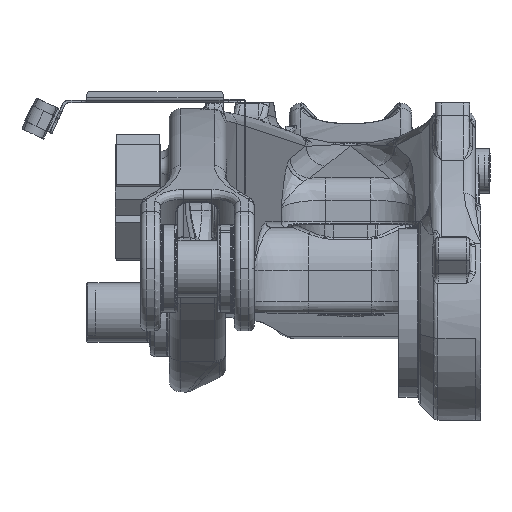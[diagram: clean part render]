
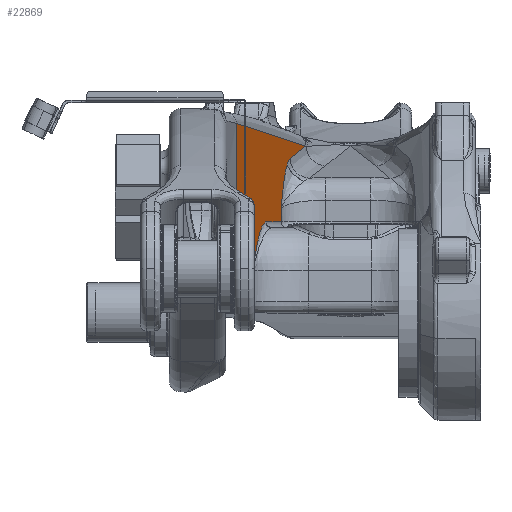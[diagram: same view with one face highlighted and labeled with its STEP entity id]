
A CAD part, left-side view. The second image highlights one B-rep face of the part: STEP entity #22869.
In plain terms, the highlighted planar face has unit normal (-0.157, -0.988, 0).
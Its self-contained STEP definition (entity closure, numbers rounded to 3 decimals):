
#22748=AXIS2_PLACEMENT_3D('Plane Axis2P3D',#22745,#22746,#22747) ;
#22245=CARTESIAN_POINT('Vertex',(885.062,201.467,3153.991)) ;
#22319=CARTESIAN_POINT('Control Point',(885.062,201.467,3153.991)) ;
#22320=CARTESIAN_POINT('Control Point',(978.444,186.651,3151.429)) ;
#22321=CARTESIAN_POINT('Control Point',(1071.808,171.837,3148.185)) ;
#22322=CARTESIAN_POINT('Control Point',(1165.147,157.027,3144.259)) ;
#22323=CARTESIAN_POINT('Control Point',(1319.911,132.47,3136.616)) ;
#22324=CARTESIAN_POINT('Control Point',(1474.571,107.931,3127.097)) ;
#22325=CARTESIAN_POINT('Control Point',(1535.967,98.189,3123.022)) ;
#22326=CARTESIAN_POINT('Control Point',(1597.343,88.45,3118.651)) ;
#22327=CARTESIAN_POINT('Control Point',(1658.698,78.715,3113.985)) ;
#22328=CARTESIAN_POINT('Vertex',(1658.698,78.715,3113.985)) ;
#22745=CARTESIAN_POINT('Axis2P3D Location',(885.062,201.467,2820.)) ;
#22751=CARTESIAN_POINT('Control Point',(1065.671,172.81,2895.)) ;
#22752=CARTESIAN_POINT('Control Point',(1065.674,172.81,2895.003)) ;
#22753=CARTESIAN_POINT('Control Point',(1065.677,172.81,2895.006)) ;
#22754=CARTESIAN_POINT('Control Point',(1065.679,172.809,2895.008)) ;
#22755=CARTESIAN_POINT('Control Point',(1066.043,172.751,2895.366)) ;
#22756=CARTESIAN_POINT('Control Point',(1066.407,172.694,2895.724)) ;
#22757=CARTESIAN_POINT('Control Point',(1066.767,172.636,2896.079)) ;
#22758=CARTESIAN_POINT('Control Point',(1068.219,172.406,2897.507)) ;
#22759=CARTESIAN_POINT('Control Point',(1069.672,172.175,2898.936)) ;
#22760=CARTESIAN_POINT('Control Point',(1070.765,172.002,2900.009)) ;
#22761=CARTESIAN_POINT('Control Point',(1078.085,170.841,2907.189)) ;
#22762=CARTESIAN_POINT('Control Point',(1085.494,169.665,2914.362)) ;
#22763=CARTESIAN_POINT('Control Point',(1091.953,168.64,2920.452)) ;
#22764=CARTESIAN_POINT('Control Point',(1104.463,166.655,2931.756)) ;
#22765=CARTESIAN_POINT('Control Point',(1118.205,164.475,2942.768)) ;
#22766=CARTESIAN_POINT('Control Point',(1124.909,163.411,2947.774)) ;
#22767=CARTESIAN_POINT('Control Point',(1137.753,161.373,2956.525)) ;
#22768=CARTESIAN_POINT('Control Point',(1152.034,159.107,2964.337)) ;
#22769=CARTESIAN_POINT('Control Point',(1158.733,158.044,2967.582)) ;
#22770=CARTESIAN_POINT('Control Point',(1171.918,155.952,2973.05)) ;
#22771=CARTESIAN_POINT('Control Point',(1186.118,153.699,2976.979)) ;
#22772=CARTESIAN_POINT('Control Point',(1192.969,152.612,2978.415)) ;
#22773=CARTESIAN_POINT('Control Point',(1201.319,151.287,2979.557)) ;
#22774=CARTESIAN_POINT('Control Point',(1209.806,149.941,2979.938)) ;
#22775=CARTESIAN_POINT('Control Point',(1211.168,149.724,2979.979)) ;
#22776=CARTESIAN_POINT('Control Point',(1212.533,149.508,2980.)) ;
#22777=CARTESIAN_POINT('Control Point',(1213.9,149.291,2980.)) ;
#22778=CARTESIAN_POINT('Vertex',(1065.671,172.81,2895.)) ;
#22780=CARTESIAN_POINT('Vertex',(1213.9,149.291,2980.)) ;
#22783=CARTESIAN_POINT('Line Origine',(1298.218,135.912,2980.)) ;
#22787=CARTESIAN_POINT('Vertex',(1382.537,122.534,2980.)) ;
#22790=CARTESIAN_POINT('Line Origine',(1382.537,122.534,2992.017)) ;
#22794=CARTESIAN_POINT('Vertex',(1382.537,122.534,3004.034)) ;
#22798=CARTESIAN_POINT('Control Point',(1382.537,122.534,3004.034)) ;
#22799=CARTESIAN_POINT('Control Point',(1382.538,122.533,3004.037)) ;
#22800=CARTESIAN_POINT('Control Point',(1382.54,122.533,3004.04)) ;
#22801=CARTESIAN_POINT('Control Point',(1382.542,122.533,3004.043)) ;
#22802=CARTESIAN_POINT('Control Point',(1382.723,122.504,3004.358)) ;
#22803=CARTESIAN_POINT('Control Point',(1382.905,122.475,3004.674)) ;
#22804=CARTESIAN_POINT('Control Point',(1383.083,122.447,3004.983)) ;
#22805=CARTESIAN_POINT('Control Point',(1386.229,121.948,3010.438)) ;
#22806=CARTESIAN_POINT('Control Point',(1389.414,121.442,3015.904)) ;
#22807=CARTESIAN_POINT('Control Point',(1392.524,120.949,3021.104)) ;
#22808=CARTESIAN_POINT('Control Point',(1398.363,120.022,3030.479)) ;
#22809=CARTESIAN_POINT('Control Point',(1405.137,118.948,3040.196)) ;
#22810=CARTESIAN_POINT('Control Point',(1408.323,118.442,3044.508)) ;
#22811=CARTESIAN_POINT('Control Point',(1414.668,117.435,3052.499)) ;
#22812=CARTESIAN_POINT('Control Point',(1422.298,116.225,3060.629)) ;
#22813=CARTESIAN_POINT('Control Point',(1426.046,115.63,3064.3)) ;
#22814=CARTESIAN_POINT('Control Point',(1434.007,114.367,3071.342)) ;
#22815=CARTESIAN_POINT('Control Point',(1443.479,112.864,3077.94)) ;
#22816=CARTESIAN_POINT('Control Point',(1448.446,112.076,3080.961)) ;
#22817=CARTESIAN_POINT('Control Point',(1457.7,110.607,3085.697)) ;
#22818=CARTESIAN_POINT('Control Point',(1468.026,108.969,3089.28)) ;
#22819=CARTESIAN_POINT('Control Point',(1472.544,108.252,3090.539)) ;
#22820=CARTESIAN_POINT('Control Point',(1477.212,107.512,3091.509)) ;
#22821=CARTESIAN_POINT('Control Point',(1481.991,106.753,3092.153)) ;
#22822=CARTESIAN_POINT('Vertex',(1481.991,106.753,3092.153)) ;
#22826=CARTESIAN_POINT('Control Point',(1481.991,106.753,3092.153)) ;
#22827=CARTESIAN_POINT('Control Point',(1506.605,102.848,3095.471)) ;
#22828=CARTESIAN_POINT('Control Point',(1531.231,98.94,3098.694)) ;
#22829=CARTESIAN_POINT('Control Point',(1555.869,95.031,3101.822)) ;
#22830=CARTESIAN_POINT('Control Point',(1591.214,89.423,3106.171)) ;
#22831=CARTESIAN_POINT('Control Point',(1626.581,83.811,3110.323)) ;
#22832=CARTESIAN_POINT('Control Point',(1637.285,82.113,3111.561)) ;
#22833=CARTESIAN_POINT('Control Point',(1647.99,80.414,3112.782)) ;
#22834=CARTESIAN_POINT('Control Point',(1658.698,78.715,3113.985)) ;
#22836=CARTESIAN_POINT('Line Origine',(885.062,201.467,2996.179)) ;
#22840=CARTESIAN_POINT('Vertex',(885.062,201.467,2838.368)) ;
#22844=CARTESIAN_POINT('Control Point',(1065.671,172.81,2839.978)) ;
#22845=CARTESIAN_POINT('Control Point',(1029.547,178.542,2840.063)) ;
#22846=CARTESIAN_POINT('Control Point',(993.423,184.274,2839.944)) ;
#22847=CARTESIAN_POINT('Control Point',(957.3,190.006,2839.622)) ;
#22848=CARTESIAN_POINT('Control Point',(921.179,195.737,2839.096)) ;
#22849=CARTESIAN_POINT('Control Point',(885.062,201.467,2838.368)) ;
#22850=CARTESIAN_POINT('Vertex',(1065.671,172.81,2839.978)) ;
#22853=CARTESIAN_POINT('Line Origine',(1065.671,172.81,2867.489)) ;
#22746=DIRECTION('Axis2P3D Direction',(0.157,0.988,0.)) ;
#22747=DIRECTION('Axis2P3D XDirection',(0.988,-0.157,0.)) ;
#22784=DIRECTION('Vector Direction',(-0.988,0.157,0.)) ;
#22791=DIRECTION('Vector Direction',(0.,0.,-1.)) ;
#22837=DIRECTION('Vector Direction',(0.,0.,-1.)) ;
#22854=DIRECTION('Vector Direction',(0.,0.,1.)) ;
#22785=VECTOR('Line Direction',#22784,1.) ;
#22792=VECTOR('Line Direction',#22791,1.) ;
#22838=VECTOR('Line Direction',#22837,1.) ;
#22855=VECTOR('Line Direction',#22854,1.) ;
#22859=ORIENTED_EDGE('',*,*,#22782,.T.) ;
#22860=ORIENTED_EDGE('',*,*,#22789,.T.) ;
#22861=ORIENTED_EDGE('',*,*,#22796,.T.) ;
#22862=ORIENTED_EDGE('',*,*,#22824,.T.) ;
#22863=ORIENTED_EDGE('',*,*,#22835,.T.) ;
#22864=ORIENTED_EDGE('',*,*,#22330,.F.) ;
#22865=ORIENTED_EDGE('',*,*,#22842,.T.) ;
#22866=ORIENTED_EDGE('',*,*,#22852,.T.) ;
#22867=ORIENTED_EDGE('',*,*,#22857,.F.) ;
#22869=ADVANCED_FACE('A1-001.1\\\X2\FF8AFF9FFF70FF82\X0\ \X2\FF8EFF9EFF83FF9EFF68FF70\X0\',(#22868),#22749,.F.) ;
#22318=B_SPLINE_CURVE_WITH_KNOTS('',5,(#22319,#22320,#22321,#22322,#22323,#22324,#22325,#22326,#22327),.UNSPECIFIED.,.F.,.U.,(6,3,6),(982.705,1651.929,2092.704),.UNSPECIFIED.) ;
#22750=B_SPLINE_CURVE_WITH_KNOTS('',5,(#22751,#22752,#22753,#22754,#22755,#22756,#22757,#22758,#22759,#22760,#22761,#22762,#22763,#22764,#22765,#22766,#22767,#22768,#22769,#22770,#22771,#22772,#22773,#22774,#22775,#22776,#22777),.UNSPECIFIED.,.F.,.U.,(6,3,3,3,3,3,3,3,6),(0.,0.036,4.682,18.72,98.589,167.613,223.494,272.675,282.055),.UNSPECIFIED.) ;
#22797=B_SPLINE_CURVE_WITH_KNOTS('',5,(#22798,#22799,#22800,#22801,#22802,#22803,#22804,#22805,#22806,#22807,#22808,#22809,#22810,#22811,#22812,#22813,#22814,#22815,#22816,#22817,#22818,#22819,#22820,#22821),.UNSPECIFIED.,.F.,.U.,(6,3,3,3,3,3,3,6),(0.,0.038,4.007,69.384,119.965,161.435,200.277,228.471),.UNSPECIFIED.) ;
#22825=B_SPLINE_CURVE_WITH_KNOTS('',5,(#22826,#22827,#22828,#22829,#22830,#22831,#22832,#22833,#22834),.UNSPECIFIED.,.F.,.U.,(6,3,6),(1092.497,1269.897,1346.865),.UNSPECIFIED.) ;
#22843=B_SPLINE_CURVE_WITH_KNOTS('',5,(#22844,#22845,#22846,#22847,#22848,#22849),.UNSPECIFIED.,.F.,.U.,(6,6),(1471.658,1729.973),.UNSPECIFIED.) ;
#22330=EDGE_CURVE('',#22246,#22329,#22318,.T.) ;
#22782=EDGE_CURVE('',#22779,#22781,#22750,.T.) ;
#22789=EDGE_CURVE('',#22781,#22788,#22786,.F.) ;
#22796=EDGE_CURVE('',#22788,#22795,#22793,.F.) ;
#22824=EDGE_CURVE('',#22795,#22823,#22797,.T.) ;
#22835=EDGE_CURVE('',#22823,#22329,#22825,.T.) ;
#22842=EDGE_CURVE('',#22246,#22841,#22839,.T.) ;
#22852=EDGE_CURVE('',#22841,#22851,#22843,.F.) ;
#22857=EDGE_CURVE('',#22779,#22851,#22856,.F.) ;
#22858=EDGE_LOOP('',(#22859,#22860,#22861,#22862,#22863,#22864,#22865,#22866,#22867)) ;
#22868=FACE_OUTER_BOUND('',#22858,.T.) ;
#22786=LINE('Line',#22783,#22785) ;
#22793=LINE('Line',#22790,#22792) ;
#22839=LINE('Line',#22836,#22838) ;
#22856=LINE('Line',#22853,#22855) ;
#22749=PLANE('',#22748) ;
#22246=VERTEX_POINT('',#22245) ;
#22329=VERTEX_POINT('',#22328) ;
#22779=VERTEX_POINT('',#22778) ;
#22781=VERTEX_POINT('',#22780) ;
#22788=VERTEX_POINT('',#22787) ;
#22795=VERTEX_POINT('',#22794) ;
#22823=VERTEX_POINT('',#22822) ;
#22841=VERTEX_POINT('',#22840) ;
#22851=VERTEX_POINT('',#22850) ;
